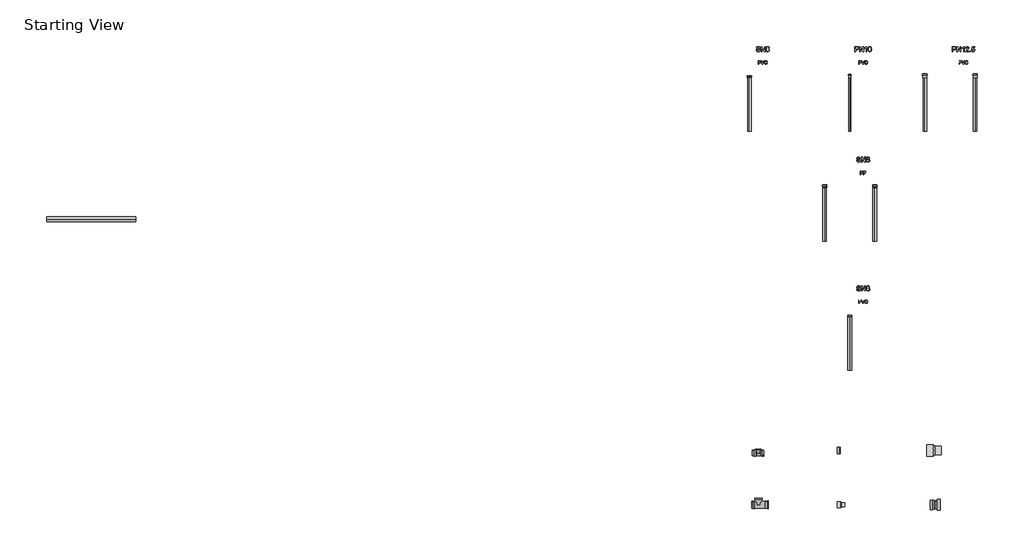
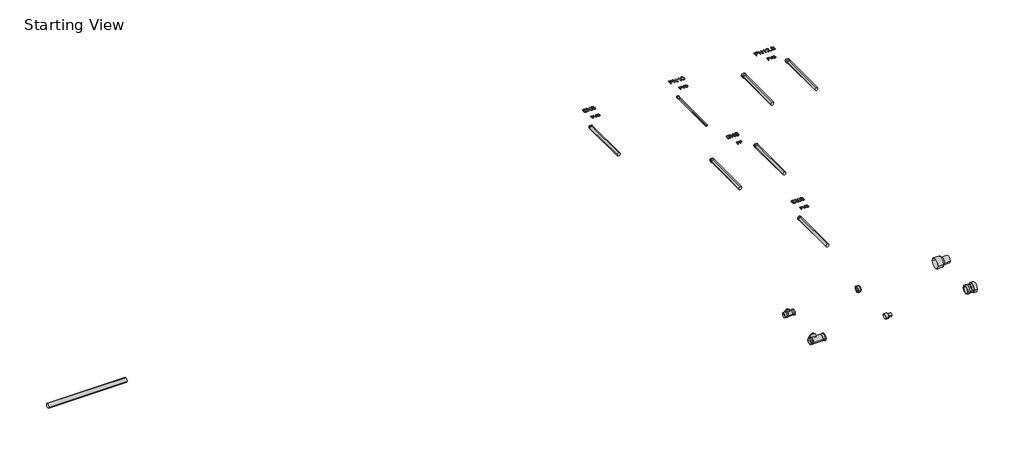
# One storey: 16 pipe fittings, 8 pipe segments.
"""IFC4 building model written with IfcOpenShell, lengths in millimetres."""

from ifc_helpers import new_model, si_unit, point, frame, frame_2d, origin, place, context, project, spatial, circle_curve, trimmed, segment, composite_curve, outline, extrude, transform, mapped, element, save
from components import pif_pvcbelowground_access_pipe_wavin_018380af, pif_pvcbelowground_access_pipe_wavin_0a932e55, pif_pvcbelowground_pipe_socket_wavin_sewer_pp_black_ral9200_6280af8b, pif_pvcbelowground_pipe_socket_wavin_sewer_pvc_brown_ral8012_61e17469, pif_pvcbelowground_pipe_socket_wavin_sewer_pvc_grey_ral7100_340a6b46, pif_pvcbelowground_pipe_socket_wavin_sewer_pvc_grey_ral7100_0078f4ef, pif_pvcbelowground_pipe_socket_wavin_sewer_pvc_red_ral3100_c325b6d2, pif_pvcbelowground_pipe_socket_wavin_standard_pvc_black_1dbcee6c, pif_pvcbelowground_transition_concrete_sleeve_wavin_711183fe, pif_pvcbelowground_transition_concrete_sleeve_wavin_pp_brown_847c4554, pif_pvcbelowground_transition_concrete_wavin_var_69fe016d, z_starting_view_new_start_4_c739c676, z_starting_view_new_start_4_2cd9201c, z_starting_view_new_start_4_d6632d80, var_eae17cc3

model = new_model("IFC4")

# Units and contexts
model_context = context("Model", 3, world=origin())
ifc_project = project(units=[si_unit("LENGTHUNIT", "METRE", prefix="MILLI")], contexts=[model_context])

# Site, building, storey
site = spatial("IfcSite", under=ifc_project)
building = spatial("IfcBuilding", under=site)
storey = spatial("IfcBuildingStorey", under=building, Name="Starting View", Elevation=0.0)

# Pipe fittings
placement = place(None, origin())
pif_pvcbelowground_access_pipe_wavin_shape = pif_pvcbelowground_access_pipe_wavin_018380af(model_context)
element("IfcPipeFitting", 1, ObjectType="PIF_PVCBelowGround_Access_Pipe_Wavin : PP Brown RAL8012 - Sever Lock Socket - SN8", at=placement, inside=storey, context=model_context, shape_type="MappedRepresentation", body=[
    mapped(pif_pvcbelowground_access_pipe_wavin_shape, transform((16940.5547534, -4656.9969084, 0.0), x_axis=(1.0, 0.0, 0.0), y_axis=(0.0, 1.0, 0.0), z_axis=(0.0, 0.0, 1.0))),
])
pif_pvcbelowground_access_pipe_wavin_2_shape = pif_pvcbelowground_access_pipe_wavin_0a932e55(model_context)
element("IfcPipeFitting", 2, ObjectType="PIF_PVCBelowGround_Access_Pipe_Wavin : PVC Brown RAL8012 - Sever Lock Socket - SN8", at=placement, inside=storey, context=model_context, shape_type="MappedRepresentation", body=[
    mapped(pif_pvcbelowground_access_pipe_wavin_2_shape, transform((16947.4897888, -6203.6340872, 0.0), x_axis=(1.0, 0.0, 0.0), y_axis=(0.0, 1.0, 0.0), z_axis=(0.0, 0.0, 1.0))),
])
pif_pvcbelowground_pipe_socket_wavin_sewer_pp_black_ral9200_shape = pif_pvcbelowground_pipe_socket_wavin_sewer_pp_black_ral9200_6280af8b(model_context)
element("IfcPipeFitting", 3, ObjectType="PIF_PVCBelowGround_Pipe_Socket_Wavin : Sewer PP Black RAL9200", at=placement, inside=storey, context=model_context, shape_type="MappedRepresentation", body=[
    mapped(pif_pvcbelowground_pipe_socket_wavin_sewer_pp_black_ral9200_shape, transform((20424.6976638, 3272.2269763, 0.0), x_axis=(0.0, 1.0, 0.0), y_axis=(1.0, 0.0, 0.0), z_axis=(0.0, 0.0, -1.0))),
])
element("IfcPipeFitting", 4, ObjectType="PIF_PVCBelowGround_Pipe_Socket_Wavin : Sewer PP Brown RAL8012", at=placement, inside=storey, context=model_context, shape_type="MappedRepresentation", body=[
    mapped(pif_pvcbelowground_pipe_socket_wavin_sewer_pp_black_ral9200_shape, transform((18924.6976638, 3272.2269763, 0.0), x_axis=(0.0, 1.0, 0.0), y_axis=(1.0, 0.0, 0.0), z_axis=(0.0, 0.0, -1.0))),
])
pif_pvcbelowground_pipe_socket_wavin_sewer_pvc_brown_ral8012_shape = pif_pvcbelowground_pipe_socket_wavin_sewer_pvc_brown_ral8012_61e17469(model_context)
element("IfcPipeFitting", 5, ObjectType="PIF_PVCBelowGround_Pipe_Socket_Wavin : Sewer PVC Brown RAL8012", at=placement, inside=storey, context=model_context, shape_type="MappedRepresentation", body=[
    mapped(pif_pvcbelowground_pipe_socket_wavin_sewer_pvc_brown_ral8012_shape, transform((16674.6976638, 6572.2269763, 0.0), x_axis=(0.0, 1.0, 0.0), y_axis=(1.0, 0.0, 0.0), z_axis=(0.0, 0.0, -1.0))),
])
pif_pvcbelowground_pipe_socket_wavin_sewer_pvc_grey_ral7100_shape = pif_pvcbelowground_pipe_socket_wavin_sewer_pvc_grey_ral7100_340a6b46(model_context)
element("IfcPipeFitting", 6, ObjectType="PIF_PVCBelowGround_Pipe_Socket_Wavin : Sewer PVC Grey RAL7100", at=placement, inside=storey, context=model_context, shape_type="MappedRepresentation", body=[
    mapped(pif_pvcbelowground_pipe_socket_wavin_sewer_pvc_grey_ral7100_shape, transform((19674.6976638, 6572.2269763, 0.0), x_axis=(0.0, 1.0, 0.0), y_axis=(1.0, 0.0, 0.0), z_axis=(0.0, 0.0, -1.0))),
])
pif_pvcbelowground_pipe_socket_wavin_sewer_pvc_grey_ral7100_2_shape = pif_pvcbelowground_pipe_socket_wavin_sewer_pvc_grey_ral7100_0078f4ef(model_context)
element("IfcPipeFitting", 7, ObjectType="PIF_PVCBelowGround_Pipe_Socket_Wavin : Sewer PVC Grey RAL7100", at=placement, inside=storey, context=model_context, shape_type="MappedRepresentation", body=[
    mapped(pif_pvcbelowground_pipe_socket_wavin_sewer_pvc_grey_ral7100_2_shape, transform((21924.6976638, 6572.2269763, 0.0), x_axis=(0.0, 1.0, 0.0), y_axis=(1.0, 0.0, 0.0), z_axis=(0.0, 0.0, -1.0))),
])
pif_pvcbelowground_pipe_socket_wavin_sewer_pvc_red_ral3100_shape = pif_pvcbelowground_pipe_socket_wavin_sewer_pvc_red_ral3100_c325b6d2(model_context)
element("IfcPipeFitting", 8, ObjectType="PIF_PVCBelowGround_Pipe_Socket_Wavin : Sewer PVC Red RAL3100", at=placement, inside=storey, context=model_context, shape_type="MappedRepresentation", body=[
    mapped(pif_pvcbelowground_pipe_socket_wavin_sewer_pvc_red_ral3100_shape, transform((23424.6976638, 6572.2269763, 0.0), x_axis=(0.0, 1.0, 0.0), y_axis=(1.0, 0.0, 0.0), z_axis=(0.0, 0.0, -1.0))),
])
pif_pvcbelowground_pipe_socket_wavin_standard_pvc_black_shape = pif_pvcbelowground_pipe_socket_wavin_standard_pvc_black_1dbcee6c(model_context)
element("IfcPipeFitting", 9, ObjectType="PIF_PVCBelowGround_Pipe_Socket_Wavin : Standard PVC Black RAL9200", at=placement, inside=storey, context=model_context, shape_type="MappedRepresentation", body=[
    mapped(pif_pvcbelowground_pipe_socket_wavin_standard_pvc_black_shape, transform((19674.6976638, -581.0135388, 0.0), x_axis=(0.0, 1.0, 0.0), y_axis=(1.0, 0.0, 0.0), z_axis=(0.0, 0.0, -1.0))),
])
pif_pvcbelowground_transition_concrete_sleeve_wavin_shape = pif_pvcbelowground_transition_concrete_sleeve_wavin_711183fe(model_context)
element("IfcPipeFitting", 10, ObjectType="PIF_PVCBelowGround_Transition_Concrete_Sleeve_Wavin : PVC Brown RAL8012 OD 250/400", at=placement, inside=storey, context=model_context, shape_type="MappedRepresentation", body=[
    mapped(pif_pvcbelowground_transition_concrete_sleeve_wavin_shape, transform((22168.3706861, -4579.3511949, 0.0), x_axis=(1.0, 0.0, 0.0), y_axis=(0.0, 1.0, 0.0), z_axis=(0.0, 0.0, 1.0))),
])
pif_pvcbelowground_transition_concrete_sleeve_wavin_pp_brown_shape = pif_pvcbelowground_transition_concrete_sleeve_wavin_pp_brown_847c4554(model_context)
element("IfcPipeFitting", 11, ObjectType="PIF_PVCBelowGround_Transition_Concrete_Sleeve_Wavin : PP Brown RAL8012 OD 110", at=placement, inside=storey, context=model_context, shape_type="MappedRepresentation", body=[
    mapped(pif_pvcbelowground_transition_concrete_sleeve_wavin_pp_brown_shape, transform((19405.5279736, -6203.6340872, 0.0), x_axis=(1.0, 0.0, 0.0), y_axis=(0.0, 1.0, 0.0), z_axis=(0.0, 0.0, 1.0))),
])
pif_pvcbelowground_transition_concrete_wavin_var_shape = pif_pvcbelowground_transition_concrete_wavin_var_69fe016d(model_context)
element("IfcPipeFitting", 12, ObjectType="PIF_PVCBelowGround_Transition_Concrete_Wavin : var.", at=placement, inside=storey, context=model_context, shape_type="MappedRepresentation", body=[
    mapped(pif_pvcbelowground_transition_concrete_wavin_var_shape, transform((22205.5279736, -6203.6340872, 0.0), x_axis=(1.0, 0.0, 0.0), y_axis=(0.0, 1.0, 0.0), z_axis=(0.0, 0.0, 1.0))),
])
z_starting_view_new_start_4_shape = z_starting_view_new_start_4_c739c676(model_context)
element("IfcPipeFitting", 13, ObjectType="Z_Starting_View_New : Start_4", at=placement, inside=storey, context=model_context, shape_type="MappedRepresentation", body=[
    mapped(z_starting_view_new_start_4_shape, transform((-5659.4343333, -98.5587539, 0.0), x_axis=(1.0, 0.0, 0.0), y_axis=(0.0, 1.0, 0.0), z_axis=(0.0, 0.0, 1.0))),
])
z_starting_view_new_start_4_2_shape = z_starting_view_new_start_4_2cd9201c(model_context)
element("IfcPipeFitting", 14, ObjectType="Z_Starting_View_New : Start_4", at=placement, inside=storey, context=model_context, shape_type="MappedRepresentation", body=[
    mapped(z_starting_view_new_start_4_2_shape, transform((-2659.4343333, -3398.5587539, 0.0), x_axis=(1.0, 0.0, 0.0), y_axis=(0.0, 1.0, 0.0), z_axis=(0.0, 0.0, 1.0))),
])
z_starting_view_new_start_4_3_shape = z_starting_view_new_start_4_d6632d80(model_context)
element("IfcPipeFitting", 15, ObjectType="Z_Starting_View_New : Start_4", at=placement, inside=storey, context=model_context, shape_type="MappedRepresentation", body=[
    mapped(z_starting_view_new_start_4_3_shape, transform((-2659.4343333, -7251.7992691, 0.0), x_axis=(1.0, 0.0, 0.0), y_axis=(0.0, 1.0, 0.0), z_axis=(0.0, 0.0, 1.0))),
])
var_shape = var_eae17cc3(model_context)
element("IfcPipeFitting", 16, ObjectType="PIF_PVCBelowGround_Transition_Concrete_Sleeve_Gasket_Wavin : var.", at=placement, inside=storey, context=model_context, shape_type="MappedRepresentation", body=[
    mapped(var_shape, transform((19308.3706861, -4579.3511949, 0.0), x_axis=(1.0, 0.0, 0.0), y_axis=(0.0, 1.0, 0.0), z_axis=(0.0, 0.0, 1.0))),
])

# Pipe segments
element("IfcPipeSegment", 17, ObjectType="PI_Wavin_PVCBelowGround, PVC, Brown - SN8, Sewage - OD 110-500", at=placement, inside=storey, context=model_context, shape_type="SweptSolid", body=[
    extrude(outline(composite_curve([segment(trimmed(circle_curve(frame_2d((0.0, 16674.6976638)), 55.0), [point((0.0, 16619.6976638))], [point((-55.0, 16674.6976638))], False, "CARTESIAN"), True, "CONTINUOUS"), segment(trimmed(circle_curve(frame_2d((0.0, 16674.6976638)), 55.0), [point((-55.0, 16674.6976638))], [point((0.0, 16729.6976638))], False, "CARTESIAN"), True, "CONTINUOUS"), segment(trimmed(circle_curve(frame_2d((0.0, 16674.6976638)), 55.0), [point((0.0, 16729.6976638))], [point((55.0, 16674.6976638))], False, "CARTESIAN"), True, "CONTINUOUS"), segment(trimmed(circle_curve(frame_2d((0.0, 16674.6976638)), 55.0), [point((55.0, 16674.6976638))], [point((0.0, 16619.6976638))], False, "CARTESIAN"), True, "CONTINUOUS")], self_intersect=False)), frame((0.0, 4972.2269763, 0.0), z_axis=(0.0, 1.0, 0.0), x_axis=(0.0, 0.0, 1.0)), (0.0, 0.0, 1.0), 1600.0),
])
element("IfcPipeSegment", 18, ObjectType="PI_Wavin_PVCBelowGround, PVC, Grey - PN10, Pressure - OD 63", at=placement, inside=storey, context=model_context, shape_type="SweptSolid", body=[
    extrude(outline(composite_curve([segment(trimmed(circle_curve(frame_2d((0.0, 19674.6976638)), 31.5), [point((0.0, 19643.1976638))], [point((-31.5, 19674.6976638))], False, "CARTESIAN"), True, "CONTINUOUS"), segment(trimmed(circle_curve(frame_2d((0.0, 19674.6976638)), 31.5), [point((-31.5, 19674.6976638))], [point((0.0, 19706.1976638))], False, "CARTESIAN"), True, "CONTINUOUS"), segment(trimmed(circle_curve(frame_2d((0.0, 19674.6976638)), 31.5), [point((0.0, 19706.1976638))], [point((31.5, 19674.6976638))], False, "CARTESIAN"), True, "CONTINUOUS"), segment(trimmed(circle_curve(frame_2d((0.0, 19674.6976638)), 31.5), [point((31.5, 19674.6976638))], [point((0.0, 19643.1976638))], False, "CARTESIAN"), True, "CONTINUOUS")], self_intersect=False)), frame((0.0, 4972.2269763, 0.0), z_axis=(0.0, 1.0, 0.0), x_axis=(0.0, 0.0, 1.0)), (0.0, 0.0, 1.0), 1600.0),
])
element("IfcPipeSegment", 19, ObjectType="PI_Wavin_PVCBelowGround, PVC, Grey - PN12.5, Pressure - OD 110-400", at=placement, inside=storey, context=model_context, shape_type="SweptSolid", body=[
    extrude(outline(composite_curve([segment(trimmed(circle_curve(frame_2d((0.0, 21924.6976638)), 55.0), [point((0.0, 21869.6976638))], [point((-55.0, 21924.6976638))], False, "CARTESIAN"), True, "CONTINUOUS"), segment(trimmed(circle_curve(frame_2d((0.0, 21924.6976638)), 55.0), [point((-55.0, 21924.6976638))], [point((0.0, 21979.6976638))], False, "CARTESIAN"), True, "CONTINUOUS"), segment(trimmed(circle_curve(frame_2d((0.0, 21924.6976638)), 55.0), [point((0.0, 21979.6976638))], [point((55.0, 21924.6976638))], False, "CARTESIAN"), True, "CONTINUOUS"), segment(trimmed(circle_curve(frame_2d((0.0, 21924.6976638)), 55.0), [point((55.0, 21924.6976638))], [point((0.0, 21869.6976638))], False, "CARTESIAN"), True, "CONTINUOUS")], self_intersect=False)), frame((0.0, 4972.2269763, 0.0), z_axis=(0.0, 1.0, 0.0), x_axis=(0.0, 0.0, 1.0)), (0.0, 0.0, 1.0), 1600.0),
])
element("IfcPipeSegment", 20, ObjectType="PI_Wavin_PVCBelowGround, PVC, Red - PN12.5, Pressure - OD 110-225", at=placement, inside=storey, context=model_context, shape_type="SweptSolid", body=[
    extrude(outline(composite_curve([segment(trimmed(circle_curve(frame_2d((0.0, 23424.6976638)), 55.0), [point((0.0, 23369.6976638))], [point((-55.0, 23424.6976638))], False, "CARTESIAN"), True, "CONTINUOUS"), segment(trimmed(circle_curve(frame_2d((0.0, 23424.6976638)), 55.0), [point((-55.0, 23424.6976638))], [point((0.0, 23479.6976638))], False, "CARTESIAN"), True, "CONTINUOUS"), segment(trimmed(circle_curve(frame_2d((0.0, 23424.6976638)), 55.0), [point((0.0, 23479.6976638))], [point((55.0, 23424.6976638))], False, "CARTESIAN"), True, "CONTINUOUS"), segment(trimmed(circle_curve(frame_2d((0.0, 23424.6976638)), 55.0), [point((55.0, 23424.6976638))], [point((0.0, 23369.6976638))], False, "CARTESIAN"), True, "CONTINUOUS")], self_intersect=False)), frame((0.0, 4972.2269763, 0.0), z_axis=(0.0, 1.0, 0.0), x_axis=(0.0, 0.0, 1.0)), (0.0, 0.0, 1.0), 1600.0),
])
element("IfcPipeSegment", 21, ObjectType="PI_Wavin_PVCBelowGround, PP, Black - SN8, Stormwater - OD 110-200", at=placement, inside=storey, context=model_context, shape_type="SweptSolid", body=[
    extrude(outline(composite_curve([segment(trimmed(circle_curve(frame_2d((0.0, 20424.6976638)), 55.0), [point((0.0, 20369.6976638))], [point((-55.0, 20424.6976638))], False, "CARTESIAN"), True, "CONTINUOUS"), segment(trimmed(circle_curve(frame_2d((0.0, 20424.6976638)), 55.0), [point((-55.0, 20424.6976638))], [point((0.0, 20479.6976638))], False, "CARTESIAN"), True, "CONTINUOUS"), segment(trimmed(circle_curve(frame_2d((0.0, 20424.6976638)), 55.0), [point((0.0, 20479.6976638))], [point((55.0, 20424.6976638))], False, "CARTESIAN"), True, "CONTINUOUS"), segment(trimmed(circle_curve(frame_2d((0.0, 20424.6976638)), 55.0), [point((55.0, 20424.6976638))], [point((0.0, 20369.6976638))], False, "CARTESIAN"), True, "CONTINUOUS")], self_intersect=False)), frame((0.0, 1672.2269763, 0.0), z_axis=(0.0, 1.0, 0.0), x_axis=(0.0, 0.0, 1.0)), (0.0, 0.0, 1.0), 1600.0),
])
element("IfcPipeSegment", 22, ObjectType="PI_Wavin_PVCBelowGround, PP, Brown - SN8, Sewage - OD 110-200", at=placement, inside=storey, context=model_context, shape_type="SweptSolid", body=[
    extrude(outline(composite_curve([segment(trimmed(circle_curve(frame_2d((0.0, 18924.6976638)), 55.0), [point((0.0, 18869.6976638))], [point((-55.0, 18924.6976638))], False, "CARTESIAN"), True, "CONTINUOUS"), segment(trimmed(circle_curve(frame_2d((0.0, 18924.6976638)), 55.0), [point((-55.0, 18924.6976638))], [point((0.0, 18979.6976638))], False, "CARTESIAN"), True, "CONTINUOUS"), segment(trimmed(circle_curve(frame_2d((0.0, 18924.6976638)), 55.0), [point((0.0, 18979.6976638))], [point((55.0, 18924.6976638))], False, "CARTESIAN"), True, "CONTINUOUS"), segment(trimmed(circle_curve(frame_2d((0.0, 18924.6976638)), 55.0), [point((55.0, 18924.6976638))], [point((0.0, 18869.6976638))], False, "CARTESIAN"), True, "CONTINUOUS")], self_intersect=False)), frame((0.0, 1672.2269763, 0.0), z_axis=(0.0, 1.0, 0.0), x_axis=(0.0, 0.0, 1.0)), (0.0, 0.0, 1.0), 1600.0),
])
element("IfcPipeSegment", 23, ObjectType="PI_Wavin_PVCBelowGround, PVC, Black - SN8, Stormwater - OD 110-500", at=placement, inside=storey, context=model_context, shape_type="SweptSolid", body=[
    extrude(outline(composite_curve([segment(trimmed(circle_curve(frame_2d((0.0, 19674.6976638)), 55.0), [point((0.0, 19619.6976638))], [point((-55.0, 19674.6976638))], False, "CARTESIAN"), True, "CONTINUOUS"), segment(trimmed(circle_curve(frame_2d((0.0, 19674.6976638)), 55.0), [point((-55.0, 19674.6976638))], [point((0.0, 19729.6976638))], False, "CARTESIAN"), True, "CONTINUOUS"), segment(trimmed(circle_curve(frame_2d((0.0, 19674.6976638)), 55.0), [point((0.0, 19729.6976638))], [point((55.0, 19674.6976638))], False, "CARTESIAN"), True, "CONTINUOUS"), segment(trimmed(circle_curve(frame_2d((0.0, 19674.6976638)), 55.0), [point((55.0, 19674.6976638))], [point((0.0, 19619.6976638))], False, "CARTESIAN"), True, "CONTINUOUS")], self_intersect=False)), frame((0.0, -2181.0135388, 0.0), z_axis=(0.0, 1.0, 0.0), x_axis=(0.0, 0.0, 1.0)), (0.0, 0.0, 1.0), 1600.0),
])
element("IfcPipeSegment", 24, ObjectType="PI_Wavin_PVCBelowGround, PVC, Brown - SN8, Sewage - OD 110-500", at=placement, inside=storey, context=model_context, shape_type="SweptSolid", body=[
    extrude(outline(composite_curve([segment(trimmed(circle_curve(frame_2d((2337.6161063, -117.8)), 80.0), [point((2257.6161063, -117.8))], [point((2337.6161063, -37.8))], False, "CARTESIAN"), True, "CONTINUOUS"), segment(trimmed(circle_curve(frame_2d((2337.6161063, -117.8)), 80.0), [point((2337.6161063, -37.8))], [point((2417.6161063, -117.8))], False, "CARTESIAN"), True, "CONTINUOUS"), segment(trimmed(circle_curve(frame_2d((2337.6161063, -117.8)), 80.0), [point((2417.6161063, -117.8))], [point((2337.6161063, -197.8))], False, "CARTESIAN"), True, "CONTINUOUS"), segment(trimmed(circle_curve(frame_2d((2337.6161063, -117.8)), 80.0), [point((2337.6161063, -197.8))], [point((2257.6161063, -117.8))], False, "CARTESIAN"), True, "CONTINUOUS")], self_intersect=False)), frame((-4343.5825335, 0.0, 0.0), z_axis=(1.0, 0.0, 0.0), x_axis=(0.0, 1.0, 0.0)), (0.0, 0.0, 1.0), 2664.0),
])

save(model, "model.ifc")
